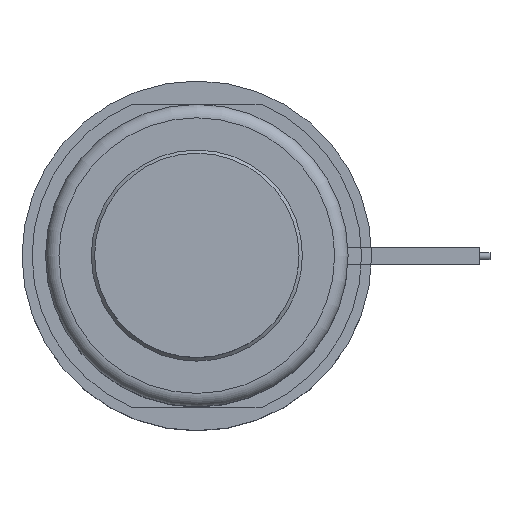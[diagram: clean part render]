
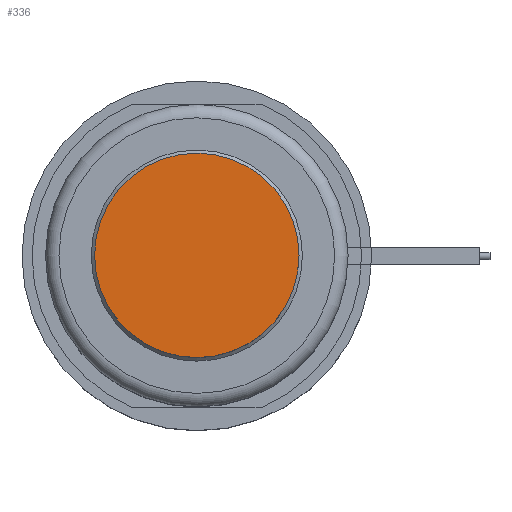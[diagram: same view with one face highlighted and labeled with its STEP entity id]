
A CAD part, top view. The second image highlights one B-rep face of the part: STEP entity #336.
In plain terms, the highlighted planar face has unit normal (0, 0, 1).
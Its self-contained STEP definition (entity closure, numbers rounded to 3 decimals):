
#243=CIRCLE('',#1306,15.2);
#336=ADVANCED_FACE('',(#466),#422,.F.);
#422=PLANE('',#1307);
#466=FACE_OUTER_BOUND('',#541,.T.);
#541=EDGE_LOOP('',(#697));
#697=ORIENTED_EDGE('',*,*,#1064,.F.);
#951=VERTEX_POINT('',#1882);
#1064=EDGE_CURVE('',#951,#951,#243,.T.);
#1306=AXIS2_PLACEMENT_3D('',#1881,#1509,#1510);
#1307=AXIS2_PLACEMENT_3D('',#1883,#1511,#1512);
#1509=DIRECTION('',(0.,0.,-1.));
#1510=DIRECTION('',(-1.,0.,0.));
#1511=DIRECTION('',(0.,0.,-1.));
#1512=DIRECTION('',(-1.,0.,0.));
#1881=CARTESIAN_POINT('',(0.,0.,18.));
#1882=CARTESIAN_POINT('',(-15.2,0.,18.));
#1883=CARTESIAN_POINT('',(0.,0.,18.));
